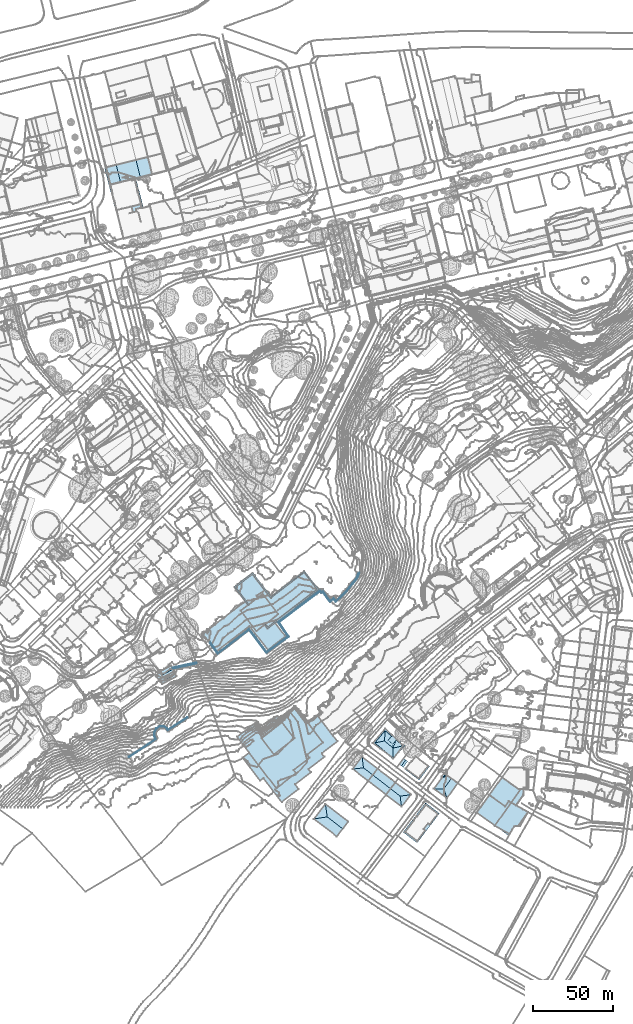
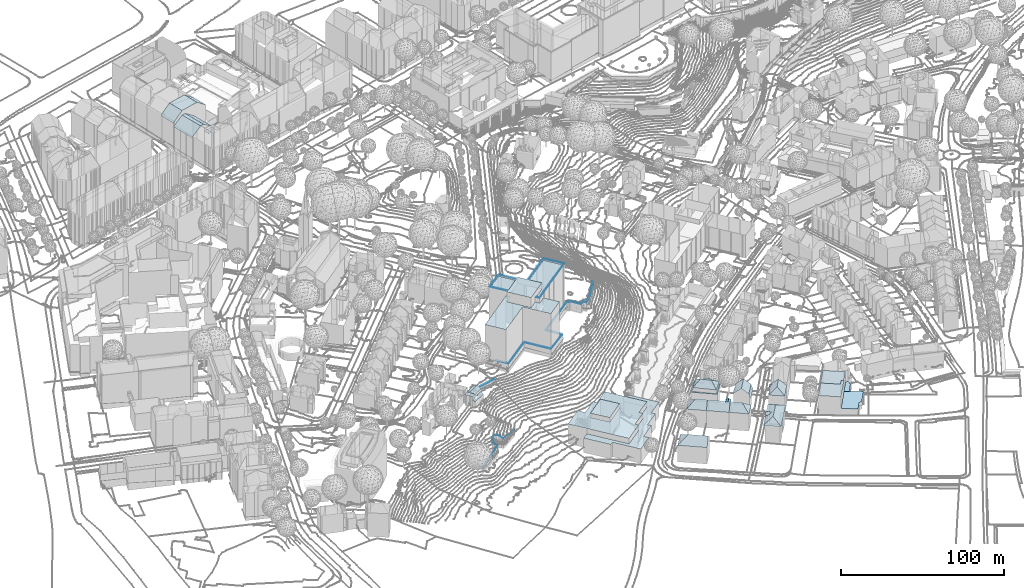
# Not in any storey, part 70 of 477: 29 roofs.
"""IFC4 building model written with IfcOpenShell, lengths in metres."""

from ifc_helpers import new_model, si_unit, frame, origin_with_axes, place, context, subcontext, project, spatial, polygons, element, save


model = new_model("IFC4")

# Units and contexts
model_context = context("Model", 3, precision=1e-05, world=origin_with_axes())
body_context = subcontext(model_context, "Body", "Model", "MODEL_VIEW")
ifc_project = project(units=[si_unit("AREAUNIT", "SQUARE_METRE"), si_unit("LENGTHUNIT", "METRE")], contexts=[model_context])

# Sites, building
site_1_placement = place(None, origin_with_axes())
site_1 = spatial("IfcSite", under=ifc_project, at=site_1_placement, Name="Topoexport Site")
site_2_placement = place(site_1_placement, origin_with_axes())
site_2 = spatial("IfcSite", under=site_1, at=site_2_placement, Name="TPX_BUILDINGS")
building_1_placement = place(site_2_placement, frame((351.9437320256, 10.5164160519, 499.6315), z_axis=(0.0, 0.0, 1.0), x_axis=(1.0, 0.0, 0.0)))
building_1 = spatial("IfcBuilding", under=site_2, at=building_1_placement, Name="Building 4", CompositionType="ELEMENT")

# Roof
roof_1_placement = place(None, frame((351.9437320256, 10.5164160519, 499.6315), z_axis=(0.0, 0.0, 1.0), x_axis=(1.0, 0.0, 0.0)))
element("IfcRoof", 1, at=roof_1_placement, inside=building_1, Name="Roof 0", context=body_context, shape_type="Tessellation", body=[
    polygons([(6.9580000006, 7.629900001, 14.9805), (6.9640000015, 9.188500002, 14.2176), (10.7760000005, 6.4600000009, 18.1722), (6.1420000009, 0.0254000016, 18.1722), (0.0, 0.0, 13.9786), (5.0899999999, 7.0692999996, 13.9786), (4.7410000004, 7.3213, 13.9786), (4.569000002, 7.4453000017, 13.9786), (6.4389999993, 8.003899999, 14.9805), (6.444000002, 9.5606000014, 14.2186), (6.2120000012, 9.7256000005, 13.9786), (6.3780000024, 9.6064999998, 14.1506), (14.9299999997, 3.4853999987, 13.9786), (8.1790000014, -5.8896000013, 13.9786)], [[[3, 2, 1]], [[3, 1, 4]], [[6, 5, 4]], [[6, 4, 1]], [[7, 6, 1]], [[7, 9, 8]], [[9, 7, 1]], [[9, 1, 2]], [[2, 10, 9]], [[12, 11, 8]], [[10, 12, 9]], [[12, 8, 9]], [[4, 14, 13]], [[13, 3, 4]], [[5, 14, 4]]]),
])

# Building
building_2_placement = place(site_2_placement, frame((313.8287320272, 39.0809160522, 500.1915), z_axis=(0.0, 0.0, 1.0), x_axis=(1.0, 0.0, 0.0)))
building_2 = spatial("IfcBuilding", under=site_2, at=building_2_placement, Name="Building 7", CompositionType="ELEMENT")

# Roofs
roof_2_placement = place(None, frame((313.8287320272, 39.0809160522, 500.1915), z_axis=(0.0, 0.0, 1.0), x_axis=(1.0, 0.0, 0.0)))
element("IfcRoof", 2, at=roof_2_placement, inside=building_2, Name="Roof 0", context=body_context, shape_type="Tessellation", body=[
    polygons([(11.6629999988, 4.4257000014, 14.0566), (7.2650000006, 1.3905999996, 17.9583), (7.5929999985, 7.8104999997, 14.0566), (1.2569999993, 0.1981999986, 14.4256), (12.5889999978, -3.0401000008, 17.9583), (12.5839999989, -9.2294999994, 14.4256), (12.3999999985, -0.5909000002, 16.6284), (9.4979999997, 1.8242000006, 16.6284), (9.8539999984, 2.2518999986, 16.2054), (12.0370000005, 4.8768999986, 15.0365), (14.9639999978, 2.4891999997, 15.0225), (14.7749999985, 2.2626999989, 15.1405), (11.6629999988, 4.4257000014, 15.2725), (14.5649999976, 2.0106999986, 15.2725), (12.0599999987, 4.9052000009, 15.0225), (13.3819999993, 0.5888000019, 15.8135), (14.5649999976, 2.0106999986, 14.8316), (18.2580000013, -1.0645000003, 14.1746), (18.9189999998, -1.6143000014, 14.0566), (18.8499999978, -1.628899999, 14.0986), (18.881000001, -1.6592000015, 14.0586)], [[[3, 2, 1]], [[3, 4, 2]], [[2, 4, 5]], [[6, 5, 4]], [[8, 2, 7]], [[5, 7, 2]], [[9, 1, 2]], [[2, 8, 9]], [[12, 11, 10]], [[7, 14, 13]], [[12, 13, 14]], [[15, 10, 11]], [[13, 8, 7]], [[10, 13, 12]], [[7, 5, 16]], [[17, 16, 5]], [[17, 5, 18]], [[18, 20, 19]], [[20, 18, 5]], [[5, 6, 20]], [[21, 19, 20]], [[21, 20, 6]]]),
])
roof_3_placement = place(None, frame((313.8287320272, 39.0809160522, 500.1915), z_axis=(0.0, 0.0, 1.0), x_axis=(1.0, 0.0, 0.0)))
element("IfcRoof", 3, at=roof_3_placement, inside=building_2, Name="Roof 1", context=body_context, shape_type="Tessellation", body=[
    polygons([(10.4340000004, 6.7362999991, 11.5769), (12.0599999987, 4.9052000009, 11.5769), (12.0370000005, 4.8768999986, 11.5769), (11.6629999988, 4.4257000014, 11.5769), (7.5929999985, 7.8104999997, 11.5769), (14.9639999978, 2.4891999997, 11.5769), (7.7670000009, 8.9550000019, 11.5769), (16.6689999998, 1.0683000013, 11.5769), (14.7749999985, 2.2626999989, 11.5769), (14.5649999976, 2.0106999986, 11.5769), (18.2580000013, -1.0645000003, 11.5769), (19.8640000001, -1.5888999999, 11.5769), (7.5520000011, 9.1356999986, 11.5769), (4.6079999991, -4.053799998, 11.5769), (1.2569999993, 0.1981999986, 11.5769), (7.7769999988, -6.1495000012, 11.5769), (-0.137000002, -0.1055000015, 11.5769), (12.5839999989, -9.2294999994, 11.5769), (18.881000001, -1.6592000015, 11.5769), (12.6770000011, -10.2265999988, 11.5769)], [[[3, 2, 1]], [[1, 5, 4]], [[2, 3, 6]], [[4, 3, 1]], [[5, 1, 7]], [[6, 9, 8]], [[6, 3, 9]], [[10, 8, 9]], [[12, 8, 11]], [[7, 13, 5]], [[16, 15, 14]], [[15, 17, 14]], [[15, 5, 13]], [[15, 16, 18]], [[13, 17, 15]], [[11, 19, 12]], [[18, 16, 20]], [[20, 12, 18]], [[18, 12, 19]], [[10, 11, 8]]]),
])

# Building
building_3_placement = place(site_2_placement, frame((207.679732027, 107.243916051, 526.7712), z_axis=(0.0, 0.0, 1.0), x_axis=(1.0, 0.0, 0.0)))
building_3 = spatial("IfcBuilding", under=site_2, at=building_3_placement, Name="Building 10", CompositionType="ELEMENT")

# Roofs
roof_4_placement = place(None, frame((207.679732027, 107.243916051, 526.7712), z_axis=(0.0, 0.0, 1.0), x_axis=(1.0, 0.0, 0.0)))
element("IfcRoof", 4, at=roof_4_placement, inside=building_3, Name="Roof 0", context=body_context, shape_type="Tessellation", body=[
    polygons([(39.2280000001, 6.2159000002, 33.9067), (47.1919999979, 12.3399000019, 33.9067), (40.6779999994, 4.3300999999, 33.9067), (71.3779999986, 27.9375, 33.9066), (37.4360000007, 25.0274000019, 33.9067), (28.8579999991, 18.4317000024, 33.9067), (20.5119999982, 29.2872000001, 33.9067), (42.5370000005, 22.4581000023, 33.9067), (63.3079999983, 38.4307000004, 33.9067), (31.0529999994, 37.3925999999, 33.9067)], [[[3, 2, 1]], [[2, 3, 4]], [[7, 6, 5]], [[5, 2, 8]], [[2, 9, 8]], [[9, 2, 4]], [[8, 10, 5]], [[5, 10, 7]]]),
])
roof_5_placement = place(None, frame((207.679732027, 107.243916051, 526.7712), z_axis=(0.0, 0.0, 1.0), x_axis=(1.0, 0.0, 0.0)))
element("IfcRoof", 5, at=roof_5_placement, inside=building_3, Name="Roof 1", context=body_context, shape_type="Tessellation", body=[
    polygons([(23.7820000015, 14.5263999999, 38.4992), (37.4360000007, 25.0274000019, 38.4992), (47.1919999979, 12.3399000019, 38.4992), (33.5379999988, 1.8399000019, 38.4992)], [[[3, 2, 1]], [[1, 4, 3]]]),
])
roof_6_placement = place(None, frame((207.679732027, 107.243916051, 526.7712), z_axis=(0.0, 0.0, 1.0), x_axis=(1.0, 0.0, 0.0)))
element("IfcRoof", 6, at=roof_6_placement, inside=building_3, Name="Roof 2", context=body_context, shape_type="Tessellation", body=[
    polygons([(63.3079999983, 38.4307000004, 34.8936), (55.8299999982, 33.4737000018, 34.8936), (63.3889999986, 39.2862000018, 34.8936), (55.4890000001, 33.2110000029, 34.8936), (72.2039999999, 27.8203999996, 34.8936), (49.7219999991, 28.7745000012, 34.8936), (42.5370000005, 22.4581000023, 34.8936), (42.6160000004, 23.3106000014, 34.8936), (61.5009999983, 19.5899000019, 34.8936), (40.6779999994, 4.3300999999, 34.8936), (71.3779999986, 27.9375, 34.8936), (52.5949999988, 12.7413000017, 34.8936), (31.0529999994, 37.3925999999, 34.8936), (32.5469999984, 36.4043000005, 34.8936), (31.1640000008, 38.202200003, 34.8936), (19.7069999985, 29.389700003, 34.8936), (20.5119999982, 29.2872000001, 34.8936), (28.4019999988, 18.0821000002, 34.8936), (28.8579999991, 18.4317000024, 34.8936), (40.4290000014, 3.3858000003, 34.8936), (38.6160000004, 5.7432000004, 34.8936), (39.2280000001, 6.2159000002, 34.8936)], [[[3, 2, 1]], [[4, 1, 2]], [[3, 1, 5]], [[7, 1, 6]], [[8, 7, 6]], [[6, 1, 4]], [[11, 10, 9]], [[11, 5, 1]], [[5, 11, 9]], [[12, 9, 10]], [[8, 14, 13]], [[15, 13, 14]], [[17, 13, 16]], [[18, 17, 16]], [[16, 13, 15]], [[18, 19, 17]], [[20, 12, 10]], [[22, 21, 10]], [[20, 10, 21]], [[13, 7, 8]]]),
])
roof_7_placement = place(None, frame((207.679732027, 107.243916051, 526.7712), z_axis=(0.0, 0.0, 1.0), x_axis=(1.0, 0.0, 0.0)))
element("IfcRoof", 7, at=roof_7_placement, inside=building_3, Name="Roof 3", context=body_context, shape_type="Tessellation", body=[
    polygons([(40.4290000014, 3.3858000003, 31.2029), (45.1660000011, 7.0274000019, 31.2029), (51.7039999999, -1.4736000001, 31.2029), (40.7190000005, -9.9217999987, 31.2029), (23.7820000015, 14.5263999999, 31.2029), (29.2599999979, 4.9786000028, 31.2029), (13.5229999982, 10.5205000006, 31.2029), (33.5379999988, 1.8399000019, 31.2029), (38.6160000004, 5.7432000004, 31.2029), (7.1279999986, 5.6006000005, 31.2029), (8.4690000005, -11.0126999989, 31.2029), (-0.057, 0.0752000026, 31.2029), (7.5779999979, 5.9483000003, 31.2029), (26.5260000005, 20.5205000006, 31.2029), (28.4019999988, 18.0821000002, 31.2029), (13.1909999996, 10.264700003, 31.2029)], [[[3, 2, 1]], [[3, 1, 4]], [[7, 6, 5]], [[1, 9, 8]], [[6, 8, 5]], [[4, 8, 6]], [[8, 4, 1]], [[12, 11, 10]], [[13, 11, 6]], [[5, 15, 14]], [[7, 5, 14]], [[16, 6, 7]], [[13, 10, 11]], [[16, 13, 6]]]),
])

# Building
building_4_placement = place(site_2_placement, frame((277.0167320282, -8.246283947, 501.3544), z_axis=(0.0, 0.0, 1.0), x_axis=(1.0, 0.0, 0.0)))
building_4 = spatial("IfcBuilding", under=site_2, at=building_4_placement, Name="Building 11", CompositionType="ELEMENT")

# Roof
roof_8_placement = place(None, frame((277.0167320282, -8.246283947, 501.3544), z_axis=(0.0, 0.0, 1.0), x_axis=(1.0, 0.0, 0.0)))
element("IfcRoof", 8, at=roof_8_placement, inside=building_4, Name="Roof 0", context=body_context, shape_type="Tessellation", body=[
    polygons([(8.2899999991, 1.3506000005, 16.7394), (0.0, 0.0, 12.3158), (7.1789999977, 9.2978999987, 12.3158), (21.432, -1.7080000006, 12.3158), (18.0519999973, -6.1854999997, 16.7393), (14.3549999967, -11.0839999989, 12.3158)], [[[3, 2, 1]], [[5, 4, 1]], [[3, 1, 4]], [[1, 2, 6]], [[6, 5, 1]]]),
])

# Building
building_5_placement = place(site_2_placement, frame((334.0767320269, -16.4571839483, 500.2114), z_axis=(0.0, 0.0, 1.0), x_axis=(1.0, 0.0, 0.0)))
building_5 = spatial("IfcBuilding", under=site_2, at=building_5_placement, Name="Building 12", CompositionType="ELEMENT")

# Roof
roof_9_placement = place(None, frame((334.0767320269, -16.4571839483, 500.2114), z_axis=(0.0, 0.0, 1.0), x_axis=(1.0, 0.0, 0.0)))
element("IfcRoof", 9, at=roof_9_placement, inside=building_5, Name="Roof 0", context=body_context, shape_type="Tessellation", body=[
    polygons([(7.5119999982, 9.8857000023, 14.8056), (5.5489999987, 9.0810000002, 16.2964), (6.6539999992, 10.5371000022, 14.8056), (7.8929999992, 9.5967000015, 14.8056), (8.6000000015, 6.7646000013, 16.2964), (5.0780000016, 6.682599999, 14.8056), (5.4620000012, 6.3916000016, 14.8056), (4.2219999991, 7.3320000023, 14.8056), (21.3359999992, 11.7412, 13.7857), (7.370000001, -6.6689999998, 13.7857), (7.1919999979, -5.4657999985, 14.3356), (19.8940000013, 11.557599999, 14.4426), (6.2259999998, 1.058600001, 17.3173), (13.5850000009, 10.7588, 17.3173), (-1.370000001, -0.0390999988, 13.7857), (0.1359999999, 0.1787, 14.4856), (7.5130000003, 9.8847000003, 14.4936), (7.1849999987, 9.9530999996, 14.2946), (12.7949999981, 16.8388000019, 14.4966), (12.5960000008, 18.371100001, 13.7857), (7.6499999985, 9.7811999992, 14.6056), (7.4930000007, 9.817400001, 14.5086), (7.4530000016, 9.7831999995, 14.5016), (5.175999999, 7.307599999, 14.2936), (5.0780000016, 6.682599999, 14.4896), (5.4149999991, 7.126000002, 14.4906), (5.2190000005, 6.5760999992, 14.6056), (7.4239999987, 9.7705000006, 14.4916), (7.2740000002, 10.067400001, 14.6556), (6.8159999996, 10.4140000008, 14.7376), (7.5119999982, 9.8857000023, 14.6056)], [[[3, 2, 1]], [[2, 4, 1]], [[4, 2, 5]], [[7, 2, 6]], [[2, 7, 5]], [[2, 8, 6]], [[11, 10, 9]], [[13, 11, 12]], [[12, 14, 13]], [[9, 12, 11]], [[16, 15, 11]], [[16, 11, 13]], [[11, 15, 10]], [[19, 18, 17]], [[18, 19, 20]], [[21, 19, 17]], [[17, 23, 22]], [[14, 19, 5]], [[19, 21, 4]], [[5, 19, 4]], [[24, 18, 15]], [[26, 24, 25]], [[24, 16, 25]], [[16, 24, 15]], [[18, 20, 15]], [[27, 25, 16]], [[23, 17, 28]], [[27, 16, 7]], [[16, 13, 5]], [[16, 5, 7]], [[5, 13, 14]], [[28, 17, 18]], [[12, 9, 20]], [[12, 19, 14]], [[19, 12, 20]], [[31, 30, 29]]]),
])

# Building
building_6_placement = place(site_2_placement, frame((211.8297320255, 101.9383160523, 526.7541), z_axis=(0.0, 0.0, 1.0), x_axis=(1.0, 0.0, 0.0)))
building_6 = spatial("IfcBuilding", under=site_2, at=building_6_placement, Name="Building 18", CompositionType="ELEMENT")

# Roofs
roof_10_placement = place(None, frame((211.8297320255, 101.9383160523, 526.7541), z_axis=(0.0, 0.0, 1.0), x_axis=(1.0, 0.0, 0.0)))
element("IfcRoof", 10, at=roof_10_placement, inside=building_6, Name="Roof 55", context=body_context, shape_type="Tessellation", body=[
    polygons([(43.5920000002, 12.5654000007, 6.2064), (42.7239999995, 12.7030999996, 6.2064), (68.9820000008, 31.8183000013, 6.5044), (69.0769999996, 32.6875, 6.5044), (35.7190000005, -5.6611999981, 6.2064), (35.5850000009, -6.5419999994, 6.2064), (24.8300000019, 7.7958999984, 6.2064), (5.3460000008, -6.2685999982, 6.2064), (5.2149999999, -7.1689999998, 6.2064), (0.5140000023, 0.3740000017, 6.2064), (0.0, 0.0, 6.2064), (24.9539999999, 8.6893999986, 6.2064), (48.870000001, 3.8192999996, 6.2064), (49.7470000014, 3.6680000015, 6.2064), (70.7380000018, 31.3691000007, 6.5044), (75.3410000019, 26.0830000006, 6.5044), (75.2160000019, 25.1708999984, 6.5044), (77.5540000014, 27.0381000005, 6.5044), (70.8990000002, 32.2324000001, 6.5044), (69.9759999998, 31.6328000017, 6.5044), (69.8550000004, 30.7969000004, 6.5044), (79.0080000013, 26.1094000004, 6.5044), (78.9220000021, 25.1425999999, 6.5044), (85.1559999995, 32.0498000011, 6.5044), (85.6270000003, 31.621100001, 6.5044), (91.6669999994, 40.2412, 6.5044), (93.6900000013, 43.4589999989, 6.5044), (92.2200000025, 39.9149999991, 6.5044), (77.6790000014, 27.9521000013, 6.5044), (93.1030000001, 43.7021000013, 6.5044)], [[[3, 2, 1]], [[4, 2, 3]], [[7, 6, 5]], [[9, 7, 8]], [[11, 8, 10]], [[8, 11, 9]], [[8, 7, 12]], [[6, 13, 5]], [[13, 6, 14]], [[13, 14, 1]], [[13, 1, 2]], [[12, 7, 5]], [[17, 16, 15]], [[18, 16, 17]], [[16, 19, 15]], [[3, 21, 20]], [[20, 21, 15]], [[20, 4, 3]], [[15, 19, 20]], [[18, 23, 22]], [[25, 24, 22]], [[24, 25, 26]], [[26, 28, 27]], [[28, 26, 25]], [[18, 22, 29]], [[26, 27, 30]], [[18, 29, 16]], [[25, 22, 23]]]),
])
roof_11_placement = place(None, frame((211.8297320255, 101.9383160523, 526.7541), z_axis=(0.0, 0.0, 1.0), x_axis=(1.0, 0.0, 0.0)))
element("IfcRoof", 11, at=roof_11_placement, inside=building_6, Name="Roof 56", context=body_context, shape_type="Tessellation", body=[
    polygons([(118.4670000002, -76.0830000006, -21.2761), (121.2270000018, -72.3379000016, -21.2761), (122.5380000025, -73.3037, -20.3052), (119.7790000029, -77.0487999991, -20.3052), (120.9370000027, -77.9013999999, -21.2761), (123.6960000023, -74.1563000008, -21.2761)], [[[3, 2, 1]], [[1, 4, 3]], [[6, 3, 5]], [[3, 4, 5]]]),
])
roof_12_placement = place(None, frame((211.8297320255, 101.9383160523, 526.7541), z_axis=(0.0, 0.0, 1.0), x_axis=(1.0, 0.0, 0.0)))
element("IfcRoof", 12, at=roof_12_placement, inside=building_6, Name="Roof 57", context=body_context, shape_type="Tessellation", body=[
    polygons([(-7.9979999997, -12.4395000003, 3.0267), (-22.9919999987, -15.7754000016, 3.1257), (-23.0159999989, -15.6611000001, 3.1257), (-7.8469999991, -13.1435999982, 3.0267), (-22.7009999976, -16.3310999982, 3.1247)], [[[3, 2, 1]], [[2, 5, 4]], [[4, 1, 2]]]),
])
roof_13_placement = place(None, frame((211.8297320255, 101.9383160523, 526.7541), z_axis=(0.0, 0.0, 1.0), x_axis=(1.0, 0.0, 0.0)))
element("IfcRoof", 13, at=roof_13_placement, inside=building_6, Name="Roof 58", context=body_context, shape_type="Tessellation", body=[
    polygons([(-29.6919999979, -52.4120999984, -7.3303), (-29.6769999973, -52.0634999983, -7.3303), (-27.7089999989, -52.5527999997, -8.0502), (-31.5610000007, -52.3574000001, -6.8983), (-31.4149999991, -52.6816999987, -6.8983), (-32.8939999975, -53.9004000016, -6.7544), (-33.1439999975, -53.6620999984, -6.7544), (-34.2329999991, -55.125, -7.1863), (-26.6359999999, -53.8544999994, -9.2021), (-26.367999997, -53.6319000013, -9.2021), (-26.0409999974, -54.9580000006, -9.6341), (-27.8649999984, -52.8671999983, -8.0502), (-25.9169999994, -54.4677999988, -9.6341), (-13.8379999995, -46.5898999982, -12.6568), (-13.6510000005, -46.8759999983, -12.6568), (-34.2729999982, -58.0879000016, -8.6262), (-34.6169999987, -58.1572000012, -8.6262), (-34.2349999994, -56.6416000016, -7.9062), (-34.5759999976, -56.5976999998, -7.9062), (-33.7829999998, -59.1513999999, -8.9142), (-33.9159999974, -55.2714999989, -7.1863), (-33.6050000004, -60.182599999, -9.2021), (-34.0889999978, -59.3066999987, -8.9142), (-33.1519999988, -60.2930000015, -9.2021), (-50.118999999, -71.6132999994, -13.5207), (-50.3090000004, -71.3280999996, -13.5207)], [[[3, 2, 1]], [[2, 4, 1]], [[1, 4, 5]], [[4, 6, 5]], [[4, 7, 6]], [[7, 8, 6]], [[11, 10, 9]], [[10, 3, 9]], [[9, 3, 12]], [[3, 1, 12]], [[11, 14, 13]], [[10, 11, 13]], [[14, 11, 15]], [[18, 17, 16]], [[17, 18, 19]], [[17, 20, 16]], [[18, 8, 19]], [[8, 18, 21]], [[6, 8, 21]], [[24, 23, 22]], [[24, 26, 25]], [[26, 24, 22]], [[24, 20, 23]], [[17, 23, 20]]]),
])

# Building
building_7_placement = place(site_2_placement, frame((386.5667320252, 6.5633160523, 499.0235), z_axis=(0.0, 0.0, 1.0), x_axis=(1.0, 0.0, 0.0)))
building_7 = spatial("IfcBuilding", under=site_2, at=building_7_placement, Name="Building 20", CompositionType="ELEMENT")

# Roofs
roof_14_placement = place(None, frame((386.5667320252, 6.5633160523, 499.0235), z_axis=(0.0, 0.0, 1.0), x_axis=(1.0, 0.0, 0.0)))
element("IfcRoof", 14, at=roof_14_placement, inside=building_7, Name="Roof 0", context=body_context, shape_type="Tessellation", body=[
    polygons([(12.2230000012, -3.8456999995, 13.8346), (0.0, 0.0, 13.8347), (7.8980000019, 11.0351000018, 13.8347), (9.9030000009, -7.0859999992, 13.8346), (18.1740000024, 3.6854999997, 13.8346), (13.6840000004, -4.6748000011, 13.8346), (19.6400000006, 3.6933000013, 13.8346)], [[[3, 2, 1]], [[1, 2, 4]], [[1, 6, 5]], [[7, 5, 6]], [[1, 5, 3]]]),
])
roof_15_placement = place(None, frame((386.5667320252, 6.5633160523, 499.0235), z_axis=(0.0, 0.0, 1.0), x_axis=(1.0, 0.0, 0.0)))
element("IfcRoof", 15, at=roof_15_placement, inside=building_7, Name="Roof 1", context=body_context, shape_type="Tessellation", body=[
    polygons([(21.1600000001, -8.9180000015, 5.3904), (13.6840000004, -4.6748000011, 5.3905), (16.6450000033, -6.1513999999, 5.3904), (19.6400000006, 3.691399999, 5.3905), (21.2810000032, 0.3359000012, 5.3905), (21.393000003, 3.6981999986, 5.3905)], [[[3, 2, 1]], [[2, 3, 4]], [[4, 3, 5]], [[4, 5, 6]]]),
])

# Building
building_8_placement = place(site_2_placement, frame((378.6967320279, -4.4298839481, 499.0235), z_axis=(0.0, 0.0, 1.0), x_axis=(1.0, 0.0, 0.0)))
building_8 = spatial("IfcBuilding", under=site_2, at=building_8_placement, Name="Building 21", CompositionType="ELEMENT")

# Roofs
roof_16_placement = place(None, frame((378.6967320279, -4.4298839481, 499.0235), z_axis=(0.0, 0.0, 1.0), x_axis=(1.0, 0.0, 0.0)))
element("IfcRoof", 16, at=roof_16_placement, inside=building_8, Name="Roof 0", context=body_context, shape_type="Tessellation", body=[
    polygons([(23.7249999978, -8.5097000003, 5.3904), (29.0299999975, 2.0751999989, 5.3904), (25.7539999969, -8.3183000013, 5.3904), (31.9169999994, 0.3066999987, 5.3904), (21.5539999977, 6.3183999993, 5.3905), (11.3049999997, -8.0790999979, 5.3904), (20.3409999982, -13.2430999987, 5.3904), (19.7300000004, -14.0995999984, 5.3904)], [[[3, 2, 1]], [[2, 3, 4]], [[2, 5, 1]], [[1, 5, 6]], [[1, 6, 7]], [[7, 6, 8]]]),
])
roof_17_placement = place(None, frame((378.6967320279, -4.4298839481, 499.0235), z_axis=(0.0, 0.0, 1.0), x_axis=(1.0, 0.0, 0.0)))
element("IfcRoof", 17, at=roof_17_placement, inside=building_8, Name="Roof 1", context=body_context, shape_type="Tessellation", body=[
    polygons([(0.0, 0.0, 13.8347), (17.7729999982, 3.9072000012, 13.8346), (11.3049999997, -8.0790999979, 13.8346), (21.5539999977, 6.3183999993, 13.8346), (7.8699999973, 10.9932000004, 13.8347), (20.0929999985, 7.1475000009, 13.8346)], [[[3, 2, 1]], [[2, 3, 4]], [[1, 2, 5]], [[6, 2, 4]]]),
])

# Building
building_9_placement = place(site_2_placement, frame((310.929732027, 15.368916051, 513.3392), z_axis=(0.0, 0.0, 1.0), x_axis=(1.0, 0.0, 0.0)))
building_9 = spatial("IfcBuilding", under=site_2, at=building_9_placement, Name="Building 25", CompositionType="ELEMENT")

# Roof
roof_18_placement = place(None, frame((310.929732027, 15.368916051, 513.3392), z_axis=(0.0, 0.0, 1.0), x_axis=(1.0, 0.0, 0.0)))
element("IfcRoof", 18, at=roof_18_placement, inside=building_9, Name="Roof 0", context=body_context, shape_type="Tessellation", body=[
    polygons([(13.9970000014, -4.753899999, 4.7545), (0.0, 0.0, 0.0), (2.9210000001, 3.8106000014, 4.7546), (11.0769999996, -8.5653999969, 0.0), (16.938000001, -0.9149999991, 0.0), (5.8640000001, 7.6495000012, 0.0)], [[[3, 2, 1]], [[4, 1, 2]], [[6, 3, 5]], [[1, 5, 3]]]),
])

# Building
building_10_placement = place(site_2_placement, frame((322.0067320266, 6.8035160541, 500.5714), z_axis=(0.0, 0.0, 1.0), x_axis=(1.0, 0.0, 0.0)))
building_10 = spatial("IfcBuilding", under=site_2, at=building_10_placement, Name="Building 26", CompositionType="ELEMENT")

# Roof
roof_19_placement = place(None, frame((322.0067320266, 6.8035160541, 500.5714), z_axis=(0.0, 0.0, 1.0), x_axis=(1.0, 0.0, 0.0)))
element("IfcRoof", 19, at=roof_19_placement, inside=building_10, Name="Roof 0", context=body_context, shape_type="Tessellation", body=[
    polygons([(5.8610000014, 7.6503999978, 12.7678), (15.6110000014, 0.1103999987, 12.7678), (8.8049999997, -0.7402000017, 17.5223), (2.9200000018, 3.811499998, 17.5223), (9.7160000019, -7.5137000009, 12.7678), (0.0, 0.0, 12.7678)], [[[3, 2, 1]], [[1, 4, 3]], [[5, 2, 3]], [[4, 6, 3]], [[5, 3, 6]]]),
])

# Building
building_11_placement = place(site_2_placement, frame((301.1767320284, 22.9119160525, 500.5715), z_axis=(0.0, 0.0, 1.0), x_axis=(1.0, 0.0, 0.0)))
building_11 = spatial("IfcBuilding", under=site_2, at=building_11_placement, Name="Building 27", CompositionType="ELEMENT")

# Roof
roof_20_placement = place(None, frame((301.1767320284, 22.9119160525, 500.5715), z_axis=(0.0, 0.0, 1.0), x_axis=(1.0, 0.0, 0.0)))
element("IfcRoof", 20, at=roof_20_placement, inside=building_11, Name="Roof 0", context=body_context, shape_type="Tessellation", body=[
    polygons([(6.7850000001, 0.8222999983, 17.5223), (5.8959999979, 7.6240000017, 12.7677), (15.6140000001, 0.1026000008, 12.7677), (12.6739999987, -3.7324000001, 17.5223), (9.7529999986, -7.5430000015, 12.7677), (0.0, 0.0, 12.7677), (5.8659999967, 7.5850000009, 12.7677)], [[[3, 2, 1]], [[3, 1, 4]], [[1, 6, 5]], [[5, 4, 1]], [[7, 6, 1]], [[7, 1, 2]]]),
])

# Building
building_12_placement = place(site_2_placement, frame((334.417732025, 23.1512160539, 500.1795), z_axis=(0.0, 0.0, 1.0), x_axis=(1.0, 0.0, 0.0)))
building_12 = spatial("IfcBuilding", under=site_2, at=building_12_placement, Name="Building 28", CompositionType="ELEMENT")

# Roof
roof_21_placement = place(None, frame((334.417732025, 23.1512160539, 500.1795), z_axis=(0.0, 0.0, 1.0), x_axis=(1.0, 0.0, 0.0)))
element("IfcRoof", 21, at=roof_21_placement, inside=building_12, Name="Roof 0", context=body_context, shape_type="Tessellation", body=[
    polygons([(3.5090000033, 4.8398000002, 13.2127), (3.6270000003, 4.75, 13.3377), (-0.5009999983, -0.4219000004, 13.2127), (3.8630000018, 4.5702999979, 13.5857), (3.643000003, -3.5791000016, 17.5753), (6.0840000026, 7.4862999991, 13.5847), (10.1530000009, 4.9648000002, 17.5753), (6.3630000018, 7.8524999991, 13.5847), (13.7890000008, 2.1932999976, 13.8926), (7.2800000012, -6.3506000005, 13.8926), (9.7420000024, -3.7803000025, 12.8497), (14.7580000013, 1.4540999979, 10.7259), (8.2490000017, -7.0879000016, 10.7259)], [[[3, 2, 1]], [[4, 2, 3]], [[3, 5, 4]], [[7, 6, 4]], [[6, 7, 8]], [[7, 4, 5]], [[7, 5, 9]], [[5, 10, 9]], [[12, 9, 11]], [[10, 11, 9]], [[11, 10, 13]], [[12, 11, 13]]]),
])

# Building
building_13_placement = place(site_2_placement, frame((178.2397320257, 81.0750160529, 523.9414), z_axis=(0.0, 0.0, 1.0), x_axis=(1.0, 0.0, 0.0)))
building_13 = spatial("IfcBuilding", under=site_2, at=building_13_placement, Name="Building 64", CompositionType="ELEMENT")

# Roofs
roof_22_placement = place(None, frame((178.2397320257, 81.0750160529, 523.9414), z_axis=(0.0, 0.0, 1.0), x_axis=(1.0, 0.0, 0.0)))
element("IfcRoof", 22, at=roof_22_placement, inside=building_13, Name="Roof 0", context=body_context, shape_type="Tessellation", body=[
    polygons([(5.881000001, -2.0283000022, 4.9915), (5.7330000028, -1.8330000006, 5.1155), (12.0439999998, 1.5938000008, 5.1155), (4.2340000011, -5.1387000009, 3.9956), (13.0890000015, -0.3300999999, 3.9956), (3.5240000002, -3.8027000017, 4.7695), (3.3790000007, -3.6669999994, 4.8655), (3.432, -3.6279000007, 4.8695), (4.1909999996, -5.1611000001, 3.9956)], [[[3, 2, 1]], [[5, 1, 4]], [[1, 5, 3]], [[8, 7, 6]], [[6, 9, 4]], [[9, 6, 7]], [[4, 1, 6]]]),
])
roof_23_placement = place(None, frame((178.2397320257, 81.0750160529, 523.9414), z_axis=(0.0, 0.0, 1.0), x_axis=(1.0, 0.0, 0.0)))
element("IfcRoof", 23, at=roof_23_placement, inside=building_13, Name="Roof 1", context=body_context, shape_type="Tessellation", body=[
    polygons([(1.9230000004, -2.5557000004, 7.7243), (4.4330000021, -0.1064000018, 7.7243), (4.6799999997, -0.4354999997, 7.7243), (3.1020000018, -4.120099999, 7.7243), (5.881000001, -2.0283000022, 7.7243), (-0.0579999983, 0.0771000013, 7.7243), (3.1909999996, 1.5429999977, 7.7243), (3.4840000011, 1.1543000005, 7.7243), (2.7190000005, 2.1699000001, 7.7243), (11.1440000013, 4.4706999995, 8.2762), (12.5529999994, 1.870099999, 6.8723), (12.3430000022, 1.7558999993, 6.8723), (5.7330000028, -1.8330000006, 6.8723), (4.9279999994, -0.7637000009, 7.5243), (3.9979999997, 0.4706999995, 8.2762), (11.0040000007, 4.4384999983, 8.2602), (3.4539999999, 2.7236000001, 7.4013), (2.7190000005, 2.1699000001, 7.4013), (2.8990000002, 1.9307000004, 7.5243), (9.9110000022, 6.7392999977, 7.1743), (3.1730000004, 3.0966999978, 7.1743), (3.2140000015, 3.0429999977, 7.2073)], [[[3, 2, 1]], [[5, 3, 4]], [[4, 3, 1]], [[8, 7, 6]], [[9, 6, 7]], [[8, 6, 1]], [[8, 1, 2]], [[12, 11, 10]], [[13, 12, 10]], [[14, 13, 10]], [[3, 14, 10]], [[15, 3, 10]], [[17, 15, 16]], [[10, 16, 15]], [[7, 15, 17]], [[19, 17, 18]], [[17, 19, 7]], [[20, 16, 10]], [[16, 20, 21]], [[17, 16, 22]], [[22, 16, 21]]]),
])

# Building
building_14_placement = place(site_2_placement, frame((287.111732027, 46.2742160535, 500.3625), z_axis=(0.0, 0.0, 1.0), x_axis=(1.0, 0.0, 0.0)))
building_14 = spatial("IfcBuilding", under=site_2, at=building_14_placement, Name="Building 65", CompositionType="ELEMENT")

# Roofs
roof_24_placement = place(None, frame((287.111732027, 46.2742160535, 500.3625), z_axis=(0.0, 0.0, 1.0), x_axis=(1.0, 0.0, 0.0)))
element("IfcRoof", 24, at=roof_24_placement, inside=building_14, Name="Roof 1", context=body_context, shape_type="Tessellation", body=[
    polygons([(-42.6979999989, 2.1601999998, 14.9756), (-58.1130000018, -3.2793000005, 14.9756), (-45.8029999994, 6.1952999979, 14.9756), (-29.9539999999, 5.7969000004, 14.9756), (-42.6830000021, -4.2099000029, 14.9756), (-31.2890000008, 7.7841999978, 14.9756), (-32.8110000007, 9.7714999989, 14.9756), (-21.3819999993, 15.4032999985, 14.9756), (-13.6860000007, 5.4052999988, 14.9756), (-33.4110000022, -35.375, 14.9756), (-34.8139999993, -14.2206999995, 14.9756), (-21.1009999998, -25.9004000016, 14.9756), (-22.550999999, -24.0175999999, 14.9756), (-22.0850000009, -4.2148000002, 14.9756), (-4.3040000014, -6.7851000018, 14.9756), (-14.2050000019, -14.4053000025, 14.9756), (-12.6649999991, -16.4072000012, 14.9756)], [[[3, 2, 1]], [[1, 5, 4]], [[5, 1, 2]], [[7, 1, 6]], [[8, 6, 4]], [[8, 4, 9]], [[1, 4, 6]], [[11, 2, 10]], [[13, 10, 12]], [[10, 13, 11]], [[11, 13, 14]], [[9, 14, 15]], [[9, 4, 14]], [[16, 14, 13]], [[16, 15, 14]], [[13, 17, 16]], [[5, 2, 11]]]),
])
roof_25_placement = place(None, frame((287.111732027, 46.2742160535, 500.3625), z_axis=(0.0, 0.0, 1.0), x_axis=(1.0, 0.0, 0.0)))
element("IfcRoof", 25, at=roof_25_placement, inside=building_14, Name="Roof 2", context=body_context, shape_type="Tessellation", body=[
    polygons([(-42.6830000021, -4.2099000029, 18.1513), (-29.9539999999, 5.7969000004, 18.1513), (-22.0850000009, -4.2148000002, 18.1513), (-34.8139999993, -14.2206999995, 18.1513)], [[[3, 2, 1]], [[1, 4, 3]]]),
])
roof_26_placement = place(None, frame((287.111732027, 46.2742160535, 500.3625), z_axis=(0.0, 0.0, 1.0), x_axis=(1.0, 0.0, 0.0)))
element("IfcRoof", 26, at=roof_26_placement, inside=building_14, Name="Roof 3", context=body_context, shape_type="Tessellation", body=[
    polygons([(-3.3680000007, -15.7138999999, 11.0379), (-13.3530000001, -23.3993999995, 11.0379), (-12.6649999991, -16.4072000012, 11.038), (-21.1009999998, -25.9004000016, 11.0379), (-11.8669999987, -25.3359000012, 11.0379), (-4.3040000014, -6.7851000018, 11.038), (4.6689999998, -6.067400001, 11.0379), (-5.0399999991, -13.5381000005, 11.0379), (-22.550999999, -24.0175999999, 11.038), (-19.5040000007, -35.8525000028, 11.0379), (-30.0280000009, -43.9521000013, 11.0379), (-21.6680000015, -33.0390000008, 11.0379), (-11.7910000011, -25.438500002, 11.0379), (-33.4110000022, -35.375, 11.0379), (-41.4739999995, -29.0820000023, 11.038), (-14.2050000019, -14.4053000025, 11.038), (-7.5949999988, 9.8671999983, 11.038), (-13.5769999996, 5.2636999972, 11.038), (-43.4609999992, -30.6123000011, 11.038), (-54.5280000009, -16.2294999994, 11.038), (-50.5199999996, -13.1445000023, 11.038)], [[[3, 2, 1]], [[5, 2, 4]], [[8, 7, 6]], [[3, 1, 8]], [[4, 2, 9]], [[12, 11, 10]], [[5, 12, 13]], [[12, 5, 4]], [[12, 14, 11]], [[14, 12, 4]], [[14, 15, 11]], [[3, 9, 2]], [[16, 8, 6]], [[3, 8, 16]], [[18, 6, 17]], [[6, 7, 17]], [[20, 19, 15]], [[20, 15, 21]], [[14, 21, 15]]]),
])

# Building
building_15_placement = place(site_2_placement, frame((153.8417320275, 371.7576160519, 556.9797), z_axis=(0.0, 0.0, 1.0), x_axis=(1.0, 0.0, 0.0)))
building_15 = spatial("IfcBuilding", under=site_2, at=building_15_placement, Name="Building 166", CompositionType="ELEMENT")

# Roof
roof_27_placement = place(None, frame((153.8417320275, 371.7576160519, 556.9797), z_axis=(0.0, 0.0, 1.0), x_axis=(1.0, 0.0, 0.0)))
element("IfcRoof", 27, at=roof_27_placement, inside=building_15, Name="Roof 1", context=body_context, shape_type="Tessellation", body=[
    polygons([(15.9210000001, 1.6933999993, -0.536), (16.1589999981, 4.0625, -0.519), (16.7199999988, 1.8975000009, -0.536), (15.5020000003, 3.509800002, -0.522), (15.9199999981, 1.6944000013, -0.536), (12.1769999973, 0.7177999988, -0.536), (15.4069999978, 3.8672000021, -0.521), (9.4459999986, 2.3213, -0.536), (12.5519999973, -0.7265000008, -0.536), (10.3819999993, -1.2910000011, -0.536), (15.5659999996, 1.6026000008, -0.586), (15.9210000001, 1.6933999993, -0.736), (15.9199999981, 1.6953000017, -0.736), (16.1429999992, 1.75, -0.686)], [[[3, 2, 1]], [[5, 2, 4]], [[5, 1, 2]], [[6, 5, 4]], [[4, 2, 7]], [[8, 6, 4]], [[8, 4, 7]], [[6, 10, 9]], [[10, 6, 8]], [[5, 11, 1]], [[14, 13, 12]]]),
])

# Building
building_16_placement = place(site_2_placement, frame((149.980732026, 387.552516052, 537.2746), z_axis=(0.0, 0.0, 1.0), x_axis=(1.0, 0.0, 0.0)))
building_16 = spatial("IfcBuilding", under=site_2, at=building_16_placement, Name="Building 226", CompositionType="ELEMENT")

# Roof
roof_28_placement = place(None, frame((149.980732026, 387.552516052, 537.2746), z_axis=(0.0, 0.0, 1.0), x_axis=(1.0, 0.0, 0.0)))
element("IfcRoof", 28, at=roof_28_placement, inside=building_16, Name="Roof 0", context=body_context, shape_type="Tessellation", body=[
    polygons([(8.6750000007, 2.2109999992, 24.4136), (12.7809999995, -13.6191000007, 24.4136), (10.438000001, -14.191399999, 24.4136), (6.3269999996, 1.6015999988, 24.4136), (0.5590000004, -2.0410000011, 19.88), (-0.9129999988, -0.2303999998, 19.2051), (0.0, 0.0, 19.862), (2.811999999, -11.1845000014, 19.812), (1.8060000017, -10.7879999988, 19.2051), (15.6750000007, 2.3262000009, 19.675), (13.307, -13.4736000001, 24.0336), (15.9299999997, 4.0293000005, 19.2052), (15.9790000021, 3.8388999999, 19.2052), (19.2679999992, -11.927699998, 19.729), (20.0199999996, -11.7324000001, 19.1861), (2.9149999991, -11.6015000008, 19.807), (7.438000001, -14.9228000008, 22.2658), (3.8610000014, -15.7949000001, 19.705), (3.1620000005, -15.9657999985, 19.2051)], [[[3, 2, 1]], [[1, 4, 3]], [[5, 3, 4]], [[7, 6, 5]], [[4, 7, 5]], [[8, 3, 5]], [[8, 6, 9]], [[6, 8, 5]], [[2, 11, 10]], [[1, 10, 12]], [[10, 1, 2]], [[12, 10, 13]], [[13, 10, 14]], [[14, 15, 13]], [[11, 14, 10]], [[17, 3, 16]], [[16, 8, 9]], [[8, 16, 3]], [[18, 17, 16]], [[18, 9, 19]], [[9, 18, 16]]]),
])

# Building
building_17_placement = place(site_2_placement, frame((147.4227320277, 398.5125160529, 538.0286), z_axis=(0.0, 0.0, 1.0), x_axis=(1.0, 0.0, 0.0)))
building_17 = spatial("IfcBuilding", under=site_2, at=building_17_placement, Name="Building 228", CompositionType="ELEMENT")

# Roof
roof_29_placement = place(None, frame((147.4227320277, 398.5125160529, 538.0286), z_axis=(0.0, 0.0, 1.0), x_axis=(1.0, 0.0, 0.0)))
element("IfcRoof", 29, at=roof_29_placement, inside=building_17, Name="Roof 0", context=body_context, shape_type="Tessellation", body=[
    polygons([(1.0929999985, -4.3925999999, 21.9789), (6.1919999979, 1.5341999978, 26.9194), (8.8849999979, -9.3584000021, 26.9193), (0.7219999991, 0.1796999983, 22.5509), (18.5240000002, 4.5878999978, 26.9194), (27.9679999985, -4.6854999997, 21.7389), (21.2209999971, -6.3515999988, 26.9194), (26.0639999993, 6.4569999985, 21.128), (28.7639999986, -4.4893000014, 21.128), (18.487999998, -6.9307000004, 26.9194), (11.2329999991, -8.7490000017, 26.9193), (2.5579999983, -10.9600000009, 21.8578), (1.6449999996, -11.1904000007, 21.1278), (0.0, 0.0, 21.9749), (-0.6620000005, -0.1640999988, 21.446), (-1.0620000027, -0.2626999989, 21.136)], [[[3, 2, 1]], [[1, 2, 4]], [[7, 6, 5]], [[8, 5, 6]], [[8, 6, 9]], [[5, 10, 7]], [[10, 5, 2]], [[11, 2, 3]], [[2, 11, 10]], [[1, 13, 12]], [[4, 14, 1]], [[15, 13, 1]], [[15, 1, 14]], [[13, 15, 16]], [[3, 1, 12]]]),
])

save(model, "model.ifc")
